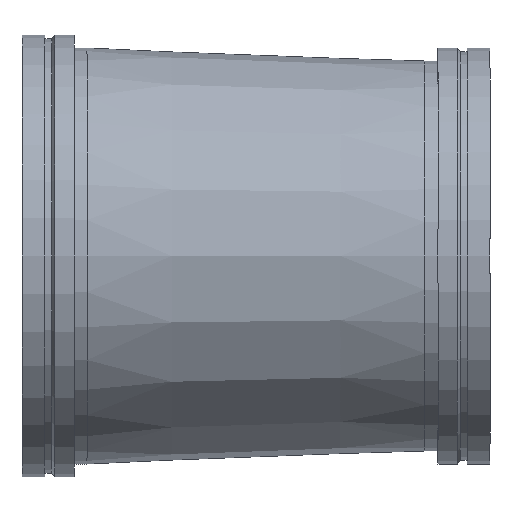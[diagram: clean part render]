
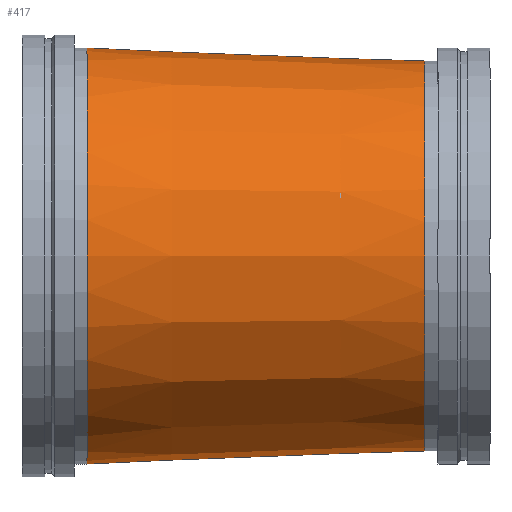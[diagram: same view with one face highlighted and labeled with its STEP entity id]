
A CAD part, front view. The second image highlights one B-rep face of the part: STEP entity #417.
In plain terms, the highlighted conical face has half-angle 2.203 degrees and reference radius 393.7 mm.
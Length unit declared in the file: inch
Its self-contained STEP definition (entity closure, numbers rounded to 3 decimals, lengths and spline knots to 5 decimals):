
#46=CONICAL_SURFACE('',#475,15.5,0.038);
#54=LINE('',#739,#68);
#68=VECTOR('',#587,15.5);
#101=FACE_OUTER_BOUND('',#124,.T.);
#124=EDGE_LOOP('',(#315,#316,#317,#318,#319,#320));
#155=CIRCLE('',#473,16.);
#156=CIRCLE('',#474,16.);
#157=CIRCLE('',#476,15.);
#158=CIRCLE('',#477,15.);
#195=VERTEX_POINT('',#729);
#196=VERTEX_POINT('',#730);
#197=VERTEX_POINT('',#735);
#198=VERTEX_POINT('',#736);
#239=EDGE_CURVE('',#195,#196,#155,.T.);
#240=EDGE_CURVE('',#196,#195,#156,.T.);
#242=EDGE_CURVE('',#197,#198,#157,.T.);
#243=EDGE_CURVE('',#198,#197,#158,.T.);
#244=EDGE_CURVE('',#198,#196,#54,.T.);
#315=ORIENTED_EDGE('',*,*,#242,.F.);
#316=ORIENTED_EDGE('',*,*,#243,.F.);
#317=ORIENTED_EDGE('',*,*,#244,.T.);
#318=ORIENTED_EDGE('',*,*,#240,.T.);
#319=ORIENTED_EDGE('',*,*,#239,.T.);
#320=ORIENTED_EDGE('',*,*,#244,.F.);
#417=ADVANCED_FACE('',(#101),#46,.T.);
#473=AXIS2_PLACEMENT_3D('',#731,#576,#577);
#474=AXIS2_PLACEMENT_3D('',#732,#578,#579);
#475=AXIS2_PLACEMENT_3D('',#734,#581,#582);
#476=AXIS2_PLACEMENT_3D('',#737,#583,#584);
#477=AXIS2_PLACEMENT_3D('',#738,#585,#586);
#576=DIRECTION('center_axis',(1.,0.,0.));
#577=DIRECTION('ref_axis',(0.,0.,-1.));
#578=DIRECTION('center_axis',(1.,0.,0.));
#579=DIRECTION('ref_axis',(0.,0.,-1.));
#581=DIRECTION('center_axis',(-1.,0.,0.));
#582=DIRECTION('ref_axis',(0.,1.,0.));
#583=DIRECTION('center_axis',(1.,0.,0.));
#584=DIRECTION('ref_axis',(0.,0.,-1.));
#585=DIRECTION('center_axis',(1.,0.,0.));
#586=DIRECTION('ref_axis',(0.,0.,-1.));
#587=DIRECTION('',(-0.999,-0.038,0.));
#729=CARTESIAN_POINT('',(5.,16.,0.));
#730=CARTESIAN_POINT('',(5.,-16.,0.));
#731=CARTESIAN_POINT('Origin',(5.,0.,0.));
#732=CARTESIAN_POINT('Origin',(5.,0.,0.));
#734=CARTESIAN_POINT('Origin',(18.,0.,0.));
#735=CARTESIAN_POINT('',(31.,15.,0.));
#736=CARTESIAN_POINT('',(31.,-15.,0.));
#737=CARTESIAN_POINT('Origin',(31.,0.,0.));
#738=CARTESIAN_POINT('Origin',(31.,0.,0.));
#739=CARTESIAN_POINT('',(18.,-15.5,0.));
